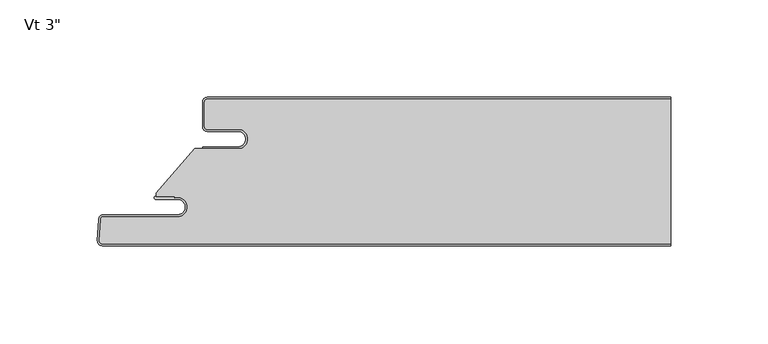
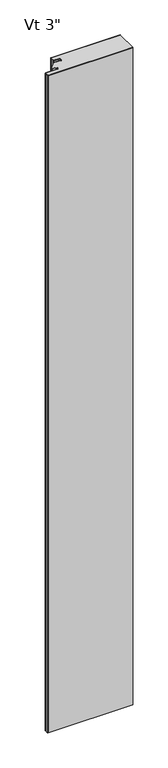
"""IFC4 building model written with IfcOpenShell, lengths in millimetres: plate geometry."""

from ifc_helpers import new_model, si_unit, point, frame_2d, origin, origin_with_axes, place, context, project, spatial, polyline, circle_curve, trimmed, segment, composite_curve, outline, extrude, source, transform, mapped, element, save


def plate_240653d1(model_context):
    return source(origin(), model_context, "Body", "SweptSolid", [
        extrude(outline(composite_curve([segment(polyline([(-101.3499998, -16.4625), (-117.2249998, -16.4625)]), True, "CONTINUOUS"), segment(trimmed(circle_curve(frame_2d((-117.2249998, -15.08125)), 1.38125), [point((-117.2249998, -16.4625))], [point((-118.6062498, -15.08125))], False, "CARTESIAN"), True, "CONTINUOUS"), segment(polyline([(-118.6062498, -15.08125), (-118.6062498, -2.38125)]), True, "CONTINUOUS"), segment(trimmed(circle_curve(frame_2d((-117.2249998, -2.38125)), 1.38125), [point((-118.6062498, -2.38125))], [point((-117.2249998, -1.0))], False, "CARTESIAN"), True, "CONTINUOUS"), segment(polyline([(-117.2249998, -1.0), (120.3999998, -1.0), (120.3999998, -75.2), (-171.0862034, -75.2)]), True, "CONTINUOUS"), segment(trimmed(circle_curve(frame_2d((-171.0862034, -73.81875)), 1.38125), [point((-171.0862034, -75.2))], [point((-172.4655604, -73.746461))], False, "CARTESIAN"), True, "CONTINUOUS"), segment(polyline([(-172.4655604, -73.746461), (-171.883179, -62.633961)]), True, "CONTINUOUS"), segment(trimmed(circle_curve(frame_2d((-170.5038219, -62.70625)), 1.38125), [point((-171.883179, -62.633961))], [point((-170.5038219, -61.325))], False, "CARTESIAN"), True, "CONTINUOUS"), segment(polyline([(-170.5038219, -61.325), (-132.3205173, -61.325)]), True, "CONTINUOUS"), segment(trimmed(circle_curve(frame_2d((-132.3205173, -56.35625)), 4.96875), [point((-132.3205173, -61.325))], [point((-132.3205173, -51.3875))], True, "CARTESIAN"), True, "CONTINUOUS"), segment(polyline([(-132.3205173, -51.3875), (-133.9080173, -51.59375), (-133.9080173, -50.8), (-143.4187498, -50.8), (-143.4187498, -49.2157227), (-123.5323421, -26.4), (-101.3499998, -26.4)]), True, "CONTINUOUS"), segment(trimmed(circle_curve(frame_2d((-101.3499998, -21.43125)), 4.96875), [point((-101.3499998, -26.4))], [point((-101.3499998, -16.4625))], True, "CARTESIAN"), True, "CONTINUOUS")], self_intersect=False)), origin_with_axes(), (0.0, 0.0, 1.0), 2400.0),
        extrude(outline(composite_curve([segment(polyline([(-119.6062498, -25.4), (-101.3499998, -25.4)]), True, "CONTINUOUS"), segment(trimmed(circle_curve(frame_2d((-101.3499998, -21.43125)), 3.96875), [point((-101.3499998, -25.4))], [point((-101.3499998, -17.4625))], True, "CARTESIAN"), True, "CONTINUOUS"), segment(polyline([(-101.3499998, -17.4625), (-117.2249998, -17.4625)]), True, "CONTINUOUS"), segment(trimmed(circle_curve(frame_2d((-117.2249998, -15.08125)), 2.38125), [point((-117.2249998, -17.4625))], [point((-119.6062498, -15.08125))], False, "CARTESIAN"), True, "CONTINUOUS"), segment(polyline([(-119.6062498, -15.08125), (-119.6062498, -2.38125)]), True, "CONTINUOUS"), segment(trimmed(circle_curve(frame_2d((-117.2249998, -2.38125)), 2.38125), [point((-119.6062498, -2.38125))], [point((-117.2249998, 0.0))], False, "CARTESIAN"), True, "CONTINUOUS"), segment(polyline([(-117.2249998, 0.0), (120.3999998, 0.0), (120.3999998, -1.0), (-117.2249998, -1.0)]), True, "CONTINUOUS"), segment(trimmed(circle_curve(frame_2d((-117.2249998, -2.38125)), 1.38125), [point((-117.2249998, -1.0))], [point((-118.6062498, -2.38125))], True, "CARTESIAN"), True, "CONTINUOUS"), segment(polyline([(-118.6062498, -2.38125), (-118.6062498, -15.08125)]), True, "CONTINUOUS"), segment(trimmed(circle_curve(frame_2d((-117.2249998, -15.08125)), 1.38125), [point((-118.6062498, -15.08125))], [point((-117.2249998, -16.4625))], True, "CARTESIAN"), True, "CONTINUOUS"), segment(polyline([(-117.2249998, -16.4625), (-101.3499998, -16.4625)]), True, "CONTINUOUS"), segment(trimmed(circle_curve(frame_2d((-101.3499998, -21.43125)), 4.96875), [point((-101.3499998, -16.4625))], [point((-101.3499998, -26.4))], False, "CARTESIAN"), True, "CONTINUOUS"), segment(polyline([(-101.3499998, -26.4), (-119.6062498, -26.4), (-119.6062498, -25.4)]), True, "CONTINUOUS")], self_intersect=False)), origin_with_axes(), (0.0, 0.0, 1.0), 2400.0),
        extrude(outline(composite_curve([segment(polyline([(-143.6314548, -50.8), (-133.9080173, -50.8), (-133.9080173, -51.59375), (-132.3205173, -51.3875)]), True, "CONTINUOUS"), segment(trimmed(circle_curve(frame_2d((-132.3205173, -56.35625)), 4.96875), [point((-132.3205173, -51.3875))], [point((-132.3205173, -61.325))], False, "CARTESIAN"), True, "CONTINUOUS"), segment(polyline([(-132.3205173, -61.325), (-170.5038219, -61.325)]), True, "CONTINUOUS"), segment(trimmed(circle_curve(frame_2d((-170.5038219, -62.70625)), 1.38125), [point((-170.5038219, -61.325))], [point((-171.883179, -62.633961))], True, "CARTESIAN"), True, "CONTINUOUS"), segment(polyline([(-171.883179, -62.633961), (-172.4655604, -73.746461)]), True, "CONTINUOUS"), segment(trimmed(circle_curve(frame_2d((-171.0862034, -73.81875)), 1.38125), [point((-172.4655604, -73.746461))], [point((-171.0862034, -75.2))], True, "CARTESIAN"), True, "CONTINUOUS"), segment(polyline([(-171.0862034, -75.2), (120.3999998, -75.2), (120.3999998, -76.2), (-171.0862034, -76.2)]), True, "CONTINUOUS"), segment(trimmed(circle_curve(frame_2d((-171.0862034, -73.81875)), 2.38125), [point((-171.0862034, -76.2))], [point((-173.4641899, -73.694125))], False, "CARTESIAN"), True, "CONTINUOUS"), segment(polyline([(-173.4641899, -73.694125), (-172.8818085, -62.581625)]), True, "CONTINUOUS"), segment(trimmed(circle_curve(frame_2d((-170.5038219, -62.70625)), 2.38125), [point((-172.8818085, -62.581625))], [point((-170.5038219, -60.325))], False, "CARTESIAN"), True, "CONTINUOUS"), segment(polyline([(-170.5038219, -60.325), (-132.3205173, -60.325)]), True, "CONTINUOUS"), segment(trimmed(circle_curve(frame_2d((-132.3205173, -56.35625)), 3.96875), [point((-132.3205173, -60.325))], [point((-132.3205173, -52.3875))], True, "CARTESIAN"), True, "CONTINUOUS"), segment(polyline([(-132.3205173, -52.3875), (-143.6314548, -52.3875)]), True, "CONTINUOUS"), segment(trimmed(circle_curve(frame_2d((-143.6314548, -51.59375)), 0.79375), [point((-143.6314548, -52.3875))], [point((-143.6314548, -50.8))], False, "CARTESIAN"), True, "CONTINUOUS")], self_intersect=False)), origin_with_axes(), (0.0, 0.0, 1.0), 2400.0),
    ])


if __name__ == "__main__":
    model = new_model("IFC4")
    model_context = context("Model", 3, world=origin())
    ifc_project = project(units=[si_unit("LENGTHUNIT", "METRE", prefix="MILLI")], contexts=[model_context])
    site = spatial("IfcSite", under=ifc_project)
    building = spatial("IfcBuilding", under=site)
    placement = place(None, origin())
    plate_shape = plate_240653d1(model_context)
    element("IfcPlate", 1, ObjectType="KIP-24-DWHR-R19-CP-Vt-F : Vt 3\"", at=placement, inside=building, context=model_context, shape_type="MappedRepresentation", body=[
        mapped(plate_shape, transform((0.0, 0.0, 0.0), x_axis=(1.0, 0.0, 0.0), y_axis=(0.0, 1.0, 0.0), z_axis=(0.0, 0.0, 1.0))),
    ])
    save(model, "model.ifc")
